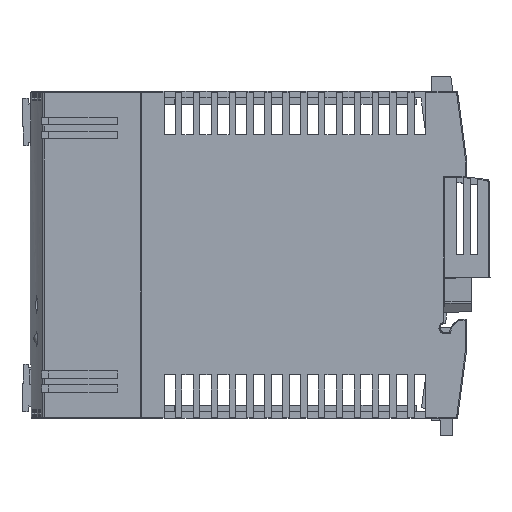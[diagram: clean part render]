
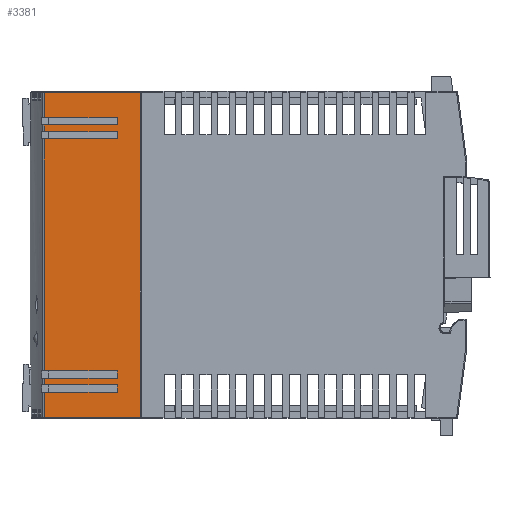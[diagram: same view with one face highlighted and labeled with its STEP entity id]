
A CAD part, front view. The second image highlights one B-rep face of the part: STEP entity #3381.
In plain terms, the highlighted planar face has unit normal (-0.008, -1, 0) as drawn and (1, 0, 0.008) by its records, which use the part's own axes.
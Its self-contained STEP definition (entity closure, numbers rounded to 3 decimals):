
#3381 = ADVANCED_FACE( '', ( #9951 ), #9952, .F. );
#9951 = FACE_OUTER_BOUND( '', #19679, .T. );
#9952 = PLANE( '', #19680 );
#19679 = EDGE_LOOP( '', ( #31526, #31527, #31528, #31529, #31530, #31531, #31532, #31533, #31534, #31535, #31536, #31537, #31538, #31539, #31540, #31541, #31542, #31543, #31544, #31545 ) );
#19680 = AXIS2_PLACEMENT_3D( '', #31546, #31547, #31548 );
#31526 = ORIENTED_EDGE( '', *, *, #57782, .F. );
#31527 = ORIENTED_EDGE( '', *, *, #57783, .F. );
#31528 = ORIENTED_EDGE( '', *, *, #57784, .F. );
#31529 = ORIENTED_EDGE( '', *, *, #57785, .T. );
#31530 = ORIENTED_EDGE( '', *, *, #57786, .T. );
#31531 = ORIENTED_EDGE( '', *, *, #57787, .F. );
#31532 = ORIENTED_EDGE( '', *, *, #57788, .F. );
#31533 = ORIENTED_EDGE( '', *, *, #57789, .T. );
#31534 = ORIENTED_EDGE( '', *, *, #57790, .F. );
#31535 = ORIENTED_EDGE( '', *, *, #57791, .F. );
#31536 = ORIENTED_EDGE( '', *, *, #57792, .F. );
#31537 = ORIENTED_EDGE( '', *, *, #57793, .F. );
#31538 = ORIENTED_EDGE( '', *, *, #57794, .F. );
#31539 = ORIENTED_EDGE( '', *, *, #57795, .F. );
#31540 = ORIENTED_EDGE( '', *, *, #57796, .F. );
#31541 = ORIENTED_EDGE( '', *, *, #57797, .T. );
#31542 = ORIENTED_EDGE( '', *, *, #57798, .T. );
#31543 = ORIENTED_EDGE( '', *, *, #57799, .T. );
#31544 = ORIENTED_EDGE( '', *, *, #57800, .F. );
#31545 = ORIENTED_EDGE( '', *, *, #57801, .F. );
#31546 = CARTESIAN_POINT( '', ( 42.658, -37.5, -5.24 ) );
#31547 = DIRECTION( '', ( -1., 0., -0.008 ) );
#31548 = DIRECTION( '', ( -0.008, 0., 1. ) );
#57782 = EDGE_CURVE( '', #67971, #67972, #67973, .T. );
#57783 = EDGE_CURVE( '', #67974, #67971, #67975, .T. );
#57784 = EDGE_CURVE( '', #67976, #67974, #67977, .T. );
#57785 = EDGE_CURVE( '', #67976, #67978, #67979, .T. );
#57786 = EDGE_CURVE( '', #67978, #67980, #67981, .T. );
#57787 = EDGE_CURVE( '', #67982, #67980, #67983, .T. );
#57788 = EDGE_CURVE( '', #67984, #67982, #67985, .T. );
#57789 = EDGE_CURVE( '', #67984, #67986, #67987, .T. );
#57790 = EDGE_CURVE( '', #67988, #67986, #67989, .T. );
#57791 = EDGE_CURVE( '', #67990, #67988, #67991, .T. );
#57792 = EDGE_CURVE( '', #67992, #67990, #67993, .T. );
#57793 = EDGE_CURVE( '', #67994, #67992, #67995, .T. );
#57794 = EDGE_CURVE( '', #67996, #67994, #67997, .T. );
#57795 = EDGE_CURVE( '', #67998, #67996, #67999, .T. );
#57796 = EDGE_CURVE( '', #68000, #67998, #68001, .T. );
#57797 = EDGE_CURVE( '', #68000, #68002, #68003, .F. );
#57798 = EDGE_CURVE( '', #68002, #68004, #68005, .T. );
#57799 = EDGE_CURVE( '', #68004, #68006, #68007, .T. );
#57800 = EDGE_CURVE( '', #68008, #68006, #68009, .T. );
#57801 = EDGE_CURVE( '', #67972, #68008, #68010, .T. );
#67971 = VERTEX_POINT( '', #82712 );
#67972 = VERTEX_POINT( '', #82713 );
#67973 = LINE( '', #82714, #82715 );
#67974 = VERTEX_POINT( '', #82716 );
#67975 = LINE( '', #82717, #82718 );
#67976 = VERTEX_POINT( '', #82719 );
#67977 = LINE( '', #82720, #82721 );
#67978 = VERTEX_POINT( '', #82722 );
#67979 = LINE( '', #82723, #82724 );
#67980 = VERTEX_POINT( '', #82725 );
#67981 = LINE( '', #82726, #82727 );
#67982 = VERTEX_POINT( '', #82728 );
#67983 = LINE( '', #82729, #82730 );
#67984 = VERTEX_POINT( '', #82731 );
#67985 = LINE( '', #82732, #82733 );
#67986 = VERTEX_POINT( '', #82734 );
#67987 = LINE( '', #82735, #82736 );
#67988 = VERTEX_POINT( '', #82737 );
#67989 = LINE( '', #82738, #82739 );
#67990 = VERTEX_POINT( '', #82740 );
#67991 = LINE( '', #82741, #82742 );
#67992 = VERTEX_POINT( '', #82743 );
#67993 = LINE( '', #82744, #82745 );
#67994 = VERTEX_POINT( '', #82746 );
#67995 = LINE( '', #82747, #82748 );
#67996 = VERTEX_POINT( '', #82749 );
#67997 = LINE( '', #82750, #82751 );
#67998 = VERTEX_POINT( '', #82752 );
#67999 = LINE( '', #82753, #82754 );
#68000 = VERTEX_POINT( '', #82755 );
#68001 = LINE( '', #82756, #82757 );
#68002 = VERTEX_POINT( '', #82758 );
#68003 = LINE( '', #82759, #82760 );
#68004 = VERTEX_POINT( '', #82761 );
#68005 = LINE( '', #82762, #82763 );
#68006 = VERTEX_POINT( '', #82764 );
#68007 = LINE( '', #82765, #82766 );
#68008 = VERTEX_POINT( '', #82767 );
#68009 = LINE( '', #82768, #82769 );
#68010 = LINE( '', #82770, #82771 );
#82712 = CARTESIAN_POINT( '', ( 42.616, 29.8, 0.06 ) );
#82713 = CARTESIAN_POINT( '', ( 42.616, 31.5, 0.06 ) );
#82714 = CARTESIAN_POINT( '', ( 42.616, 31.5, 0.06 ) );
#82715 = VECTOR( '', #103662, 1000. );
#82716 = CARTESIAN_POINT( '', ( 42.484, 29.8, 16.781 ) );
#82717 = CARTESIAN_POINT( '', ( 42.479, 29.8, 17.388 ) );
#82718 = VECTOR( '', #103663, 1000. );
#82719 = CARTESIAN_POINT( '', ( 42.484, 28.3, 16.781 ) );
#82720 = CARTESIAN_POINT( '', ( 42.484, -37.5, 16.781 ) );
#82721 = VECTOR( '', #103664, 1000. );
#82722 = CARTESIAN_POINT( '', ( 42.616, 28.3, 0.06 ) );
#82723 = CARTESIAN_POINT( '', ( 42.479, 28.3, 17.388 ) );
#82724 = VECTOR( '', #103665, 1000. );
#82725 = CARTESIAN_POINT( '', ( 42.616, 26.6, 0.059 ) );
#82726 = CARTESIAN_POINT( '', ( 42.616, 28.3, 0.06 ) );
#82727 = VECTOR( '', #103666, 1000. );
#82728 = CARTESIAN_POINT( '', ( 42.484, 26.6, 16.781 ) );
#82729 = CARTESIAN_POINT( '', ( 42.616, 26.6, 0.06 ) );
#82730 = VECTOR( '', #103667, 1000. );
#82731 = CARTESIAN_POINT( '', ( 42.484, -26.6, 16.781 ) );
#82732 = CARTESIAN_POINT( '', ( 42.484, -37.5, 16.781 ) );
#82733 = VECTOR( '', #103668, 1000. );
#82734 = CARTESIAN_POINT( '', ( 42.616, -26.6, 0.059 ) );
#82735 = CARTESIAN_POINT( '', ( 42.616, -26.6, 0.06 ) );
#82736 = VECTOR( '', #103669, 1000. );
#82737 = CARTESIAN_POINT( '', ( 42.616, -28.3, 0.06 ) );
#82738 = CARTESIAN_POINT( '', ( 42.616, -28.3, 0.06 ) );
#82739 = VECTOR( '', #103670, 1000. );
#82740 = CARTESIAN_POINT( '', ( 42.484, -28.3, 16.781 ) );
#82741 = CARTESIAN_POINT( '', ( 42.479, -28.3, 17.388 ) );
#82742 = VECTOR( '', #103671, 1000. );
#82743 = CARTESIAN_POINT( '', ( 42.484, -29.8, 16.781 ) );
#82744 = CARTESIAN_POINT( '', ( 42.484, -37.5, 16.781 ) );
#82745 = VECTOR( '', #103672, 1000. );
#82746 = CARTESIAN_POINT( '', ( 42.616, -29.8, 0.06 ) );
#82747 = CARTESIAN_POINT( '', ( 42.479, -29.8, 17.388 ) );
#82748 = VECTOR( '', #103673, 1000. );
#82749 = CARTESIAN_POINT( '', ( 42.616, -31.5, 0.06 ) );
#82750 = CARTESIAN_POINT( '', ( 42.616, -31.5, 0.06 ) );
#82751 = VECTOR( '', #103674, 1000. );
#82752 = CARTESIAN_POINT( '', ( 42.484, -31.5, 16.781 ) );
#82753 = CARTESIAN_POINT( '', ( 42.479, -31.5, 17.388 ) );
#82754 = VECTOR( '', #103675, 1000. );
#82755 = CARTESIAN_POINT( '', ( 42.484, -37.25, 16.781 ) );
#82756 = CARTESIAN_POINT( '', ( 42.484, -37.5, 16.781 ) );
#82757 = VECTOR( '', #103676, 1000. );
#82758 = CARTESIAN_POINT( '', ( 42.658, -37.25, -5.24 ) );
#82759 = CARTESIAN_POINT( '', ( 42.658, -37.25, -5.24 ) );
#82760 = VECTOR( '', #103677, 1000. );
#82761 = CARTESIAN_POINT( '', ( 42.658, 37.25, -5.24 ) );
#82762 = CARTESIAN_POINT( '', ( 42.658, -37.5, -5.24 ) );
#82763 = VECTOR( '', #103678, 1000. );
#82764 = CARTESIAN_POINT( '', ( 42.484, 37.25, 16.781 ) );
#82765 = CARTESIAN_POINT( '', ( 42.658, 37.25, -5.24 ) );
#82766 = VECTOR( '', #103679, 1000. );
#82767 = CARTESIAN_POINT( '', ( 42.484, 31.5, 16.781 ) );
#82768 = CARTESIAN_POINT( '', ( 42.484, -37.5, 16.781 ) );
#82769 = VECTOR( '', #103680, 1000. );
#82770 = CARTESIAN_POINT( '', ( 42.479, 31.5, 17.388 ) );
#82771 = VECTOR( '', #103681, 1000. );
#103662 = DIRECTION( '', ( 0., 1., 0. ) );
#103663 = DIRECTION( '', ( 0.008, 0., -1. ) );
#103664 = DIRECTION( '', ( 0., 1., 0. ) );
#103665 = DIRECTION( '', ( 0.008, 0., -1. ) );
#103666 = DIRECTION( '', ( 0., -1., 0. ) );
#103667 = DIRECTION( '', ( 0.008, 0., -1. ) );
#103668 = DIRECTION( '', ( 0., 1., 0. ) );
#103669 = DIRECTION( '', ( 0.008, 0., -1. ) );
#103670 = DIRECTION( '', ( 0., 1., 0. ) );
#103671 = DIRECTION( '', ( 0.008, 0., -1. ) );
#103672 = DIRECTION( '', ( 0., 1., 0. ) );
#103673 = DIRECTION( '', ( -0.008, 0., 1. ) );
#103674 = DIRECTION( '', ( 0., 1., 0. ) );
#103675 = DIRECTION( '', ( 0.008, 0., -1. ) );
#103676 = DIRECTION( '', ( 0., 1., 0. ) );
#103677 = DIRECTION( '', ( -0.008, 0., 1. ) );
#103678 = DIRECTION( '', ( 0., 1., 0. ) );
#103679 = DIRECTION( '', ( -0.008, 0., 1. ) );
#103680 = DIRECTION( '', ( 0., 1., 0. ) );
#103681 = DIRECTION( '', ( -0.008, 0., 1. ) );
